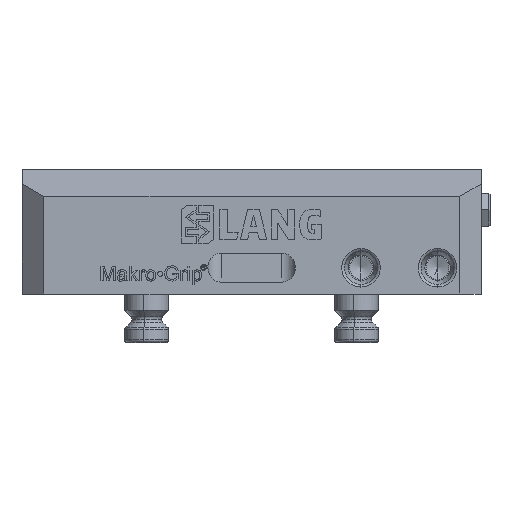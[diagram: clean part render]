
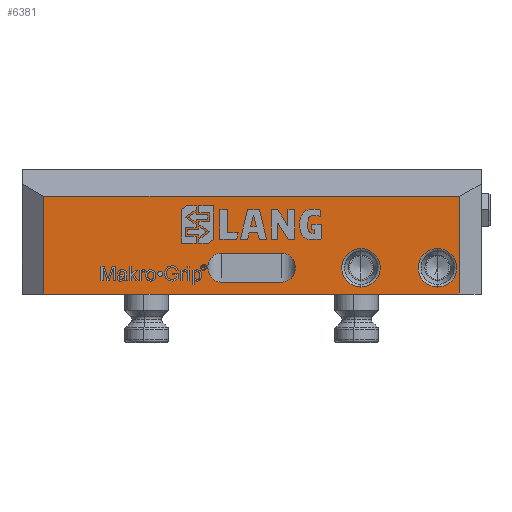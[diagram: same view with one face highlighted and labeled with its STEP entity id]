
A CAD part, top view. The second image highlights one B-rep face of the part: STEP entity #6381.
In plain terms, the highlighted planar face has unit normal (0, 0, 1).
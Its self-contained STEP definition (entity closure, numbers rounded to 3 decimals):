
#155 = DIRECTION ( 'NONE',  ( 0., 0., -1. ) ) ;
#170 = EDGE_LOOP ( 'NONE', ( #39964, #31040 ) ) ;
#343 = AXIS2_PLACEMENT_3D ( 'NONE', #7563, #155, #41467 ) ;
#467 = VERTEX_POINT ( 'NONE', #34072 ) ;
#1124 = CIRCLE ( 'NONE', #343, 8.805 ) ;
#1320 = LINE ( 'NONE', #42352, #46187 ) ;
#2299 = CARTESIAN_POINT ( 'NONE',  ( 95., 0., 62.5 ) ) ;
#2781 = CARTESIAN_POINT ( 'NONE',  ( 26.25, 5.441, 62.5 ) ) ;
#2980 = CARTESIAN_POINT ( 'NONE',  ( 85., 20.805, 62.5 ) ) ;
#3400 = EDGE_CURVE ( 'NONE', #38616, #25368, #8325, .T. ) ;
#4139 = ORIENTED_EDGE ( 'NONE', *, *, #47502, .T. ) ;
#4159 = CIRCLE ( 'NONE', #41796, 8.805 ) ;
#6381 = ADVANCED_FACE ( 'NONE', ( #40444, #17844, #37493, #21812 ), #13938, .F. ) ;
#6610 = EDGE_CURVE ( 'NONE', #14619, #32850, #23280, .T. ) ;
#6764 = DIRECTION ( 'NONE',  ( 0., 0., -1. ) ) ;
#6779 = EDGE_CURVE ( 'NONE', #28191, #34558, #39292, .T. ) ;
#6876 = ORIENTED_EDGE ( 'NONE', *, *, #6610, .T. ) ;
#6921 = CARTESIAN_POINT ( 'NONE',  ( 26.25, 18.743, 62.5 ) ) ;
#7022 = DIRECTION ( 'NONE',  ( 0., 0., -1. ) ) ;
#7312 = CARTESIAN_POINT ( 'NONE',  ( 50., 20.805, 62.5 ) ) ;
#7563 = CARTESIAN_POINT ( 'NONE',  ( 50., 12., 62.5 ) ) ;
#7897 = DIRECTION ( 'NONE',  ( 0., 0., -1. ) ) ;
#7936 = EDGE_LOOP ( 'NONE', ( #19419, #48270, #21688, #30878 ) ) ;
#8325 = CIRCLE ( 'NONE', #21722, 8.805 ) ;
#8395 = LINE ( 'NONE', #22305, #38388 ) ;
#8670 = CARTESIAN_POINT ( 'NONE',  ( -26.25, 18.743, 62.5 ) ) ;
#8701 = DIRECTION ( 'NONE',  ( -1., 0., 0. ) ) ;
#9970 = CARTESIAN_POINT ( 'NONE',  ( 50., 12., 62.5 ) ) ;
#10013 = VECTOR ( 'NONE', #39832, 1000. ) ;
#10059 = EDGE_CURVE ( 'NONE', #30457, #467, #24880, .T. ) ;
#11648 = VERTEX_POINT ( 'NONE', #20887 ) ;
#11817 = ORIENTED_EDGE ( 'NONE', *, *, #33911, .T. ) ;
#13335 = VECTOR ( 'NONE', #25341, 1000. ) ;
#13938 = PLANE ( 'NONE',  #35214 ) ;
#14056 = EDGE_LOOP ( 'NONE', ( #6876, #11817 ) ) ;
#14619 = VERTEX_POINT ( 'NONE', #2980 ) ;
#17046 = CARTESIAN_POINT ( 'NONE',  ( 50., 3.195, 62.5 ) ) ;
#17071 = DIRECTION ( 'NONE',  ( 0., 0., -1. ) ) ;
#17734 = CARTESIAN_POINT ( 'NONE',  ( 13.75, 18.743, 62.5 ) ) ;
#17844 = FACE_BOUND ( 'NONE', #170, .T. ) ;
#18080 = DIRECTION ( 'NONE',  ( -1., 0., 0. ) ) ;
#18365 = DIRECTION ( 'NONE',  ( 0., 1., 0. ) ) ;
#19031 = ORIENTED_EDGE ( 'NONE', *, *, #36797, .T. ) ;
#19419 = ORIENTED_EDGE ( 'NONE', *, *, #47805, .T. ) ;
#20786 = CARTESIAN_POINT ( 'NONE',  ( 85., 12., 62.5 ) ) ;
#20792 = CARTESIAN_POINT ( 'NONE',  ( 85., 3.195, 62.5 ) ) ;
#20887 = CARTESIAN_POINT ( 'NONE',  ( 13.75, 5.441, 62.5 ) ) ;
#21123 =( BOUNDED_CURVE ( )  B_SPLINE_CURVE ( 3, ( #33207, #2781, #6921, #17734 ),
 .UNSPECIFIED., .F., .F. ) 
 B_SPLINE_CURVE_WITH_KNOTS ( ( 4, 4 ),
 ( 0., 3.142 ),
 .UNSPECIFIED. ) 
 CURVE ( )  GEOMETRIC_REPRESENTATION_ITEM ( )  RATIONAL_B_SPLINE_CURVE ( ( 1., 0.333, 0.333, 1. ) ) 
 REPRESENTATION_ITEM ( '' )  );
#21688 = ORIENTED_EDGE ( 'NONE', *, *, #22940, .T. ) ;
#21722 = AXIS2_PLACEMENT_3D ( 'NONE', #9970, #6764, #28893 ) ;
#21812 = FACE_OUTER_BOUND ( 'NONE', #7936, .T. ) ;
#22149 = EDGE_CURVE ( 'NONE', #26302, #22844, #32210, .T. ) ;
#22305 = CARTESIAN_POINT ( 'NONE',  ( 95., 57., 62.5 ) ) ;
#22844 = VERTEX_POINT ( 'NONE', #24504 ) ;
#22940 = EDGE_CURVE ( 'NONE', #22844, #467, #44598, .T. ) ;
#23280 = CIRCLE ( 'NONE', #41270, 8.805 ) ;
#23812 = CARTESIAN_POINT ( 'NONE',  ( 105., 18.743, 62.5 ) ) ;
#24124 = ORIENTED_EDGE ( 'NONE', *, *, #6779, .F. ) ;
#24460 = CARTESIAN_POINT ( 'NONE',  ( 95., 44.587, 62.5 ) ) ;
#24504 = CARTESIAN_POINT ( 'NONE',  ( -95., 44.587, 62.5 ) ) ;
#24880 = LINE ( 'NONE', #43810, #10013 ) ;
#25341 = DIRECTION ( 'NONE',  ( -1., 0., 0. ) ) ;
#25368 = VERTEX_POINT ( 'NONE', #7312 ) ;
#25450 = EDGE_CURVE ( 'NONE', #25368, #38616, #1124, .T. ) ;
#25951 = CARTESIAN_POINT ( 'NONE',  ( -95., 0., 62.5 ) ) ;
#26302 = VERTEX_POINT ( 'NONE', #24460 ) ;
#27360 = CARTESIAN_POINT ( 'NONE',  ( -13.75, 5.441, 62.5 ) ) ;
#27899 = EDGE_LOOP ( 'NONE', ( #24124, #19031, #33441, #4139 ) ) ;
#28191 = VERTEX_POINT ( 'NONE', #41673 ) ;
#28446 = LINE ( 'NONE', #23812, #29217 ) ;
#28893 = DIRECTION ( 'NONE',  ( 0., 1., 0. ) ) ;
#29017 = CARTESIAN_POINT ( 'NONE',  ( 105., 44.587, 62.5 ) ) ;
#29217 = VECTOR ( 'NONE', #39475, 1000. ) ;
#30457 = VERTEX_POINT ( 'NONE', #2299 ) ;
#30878 = ORIENTED_EDGE ( 'NONE', *, *, #10059, .F. ) ;
#30952 = DIRECTION ( 'NONE',  ( 0., 1., 0. ) ) ;
#31040 = ORIENTED_EDGE ( 'NONE', *, *, #3400, .T. ) ;
#32060 = DIRECTION ( 'NONE',  ( 0., 1., 0. ) ) ;
#32210 = LINE ( 'NONE', #29017, #13335 ) ;
#32850 = VERTEX_POINT ( 'NONE', #20792 ) ;
#33207 = CARTESIAN_POINT ( 'NONE',  ( 13.75, 5.441, 62.5 ) ) ;
#33324 = CARTESIAN_POINT ( 'NONE',  ( 13.75, 18.743, 62.5 ) ) ;
#33441 = ORIENTED_EDGE ( 'NONE', *, *, #43461, .F. ) ;
#33911 = EDGE_CURVE ( 'NONE', #32850, #14619, #4159, .T. ) ;
#34072 = CARTESIAN_POINT ( 'NONE',  ( -95., 0., 62.5 ) ) ;
#34558 = VERTEX_POINT ( 'NONE', #37132 ) ;
#35214 = AXIS2_PLACEMENT_3D ( 'NONE', #36996, #7022, #18080 ) ;
#35687 = CARTESIAN_POINT ( 'NONE',  ( -26.25, 5.441, 62.5 ) ) ;
#36797 = EDGE_CURVE ( 'NONE', #28191, #46234, #28446, .T. ) ;
#36996 = CARTESIAN_POINT ( 'NONE',  ( 105., 0., 62.5 ) ) ;
#37132 = CARTESIAN_POINT ( 'NONE',  ( -13.75, 5.441, 62.5 ) ) ;
#37493 = FACE_BOUND ( 'NONE', #27899, .T. ) ;
#37846 = CARTESIAN_POINT ( 'NONE',  ( 85., 12., 62.5 ) ) ;
#38388 = VECTOR ( 'NONE', #18365, 1000. ) ;
#38616 = VERTEX_POINT ( 'NONE', #17046 ) ;
#39292 =( BOUNDED_CURVE ( )  B_SPLINE_CURVE ( 3, ( #46728, #8670, #35687, #27360 ),
 .UNSPECIFIED., .F., .F. ) 
 B_SPLINE_CURVE_WITH_KNOTS ( ( 4, 4 ),
 ( 3.142, 6.283 ),
 .UNSPECIFIED. ) 
 CURVE ( )  GEOMETRIC_REPRESENTATION_ITEM ( )  RATIONAL_B_SPLINE_CURVE ( ( 1., 0.333, 0.333, 1. ) ) 
 REPRESENTATION_ITEM ( '' )  );
#39475 = DIRECTION ( 'NONE',  ( 1., 0., 0. ) ) ;
#39832 = DIRECTION ( 'NONE',  ( -1., 0., 0. ) ) ;
#39964 = ORIENTED_EDGE ( 'NONE', *, *, #25450, .T. ) ;
#40444 = FACE_BOUND ( 'NONE', #14056, .T. ) ;
#40846 = VECTOR ( 'NONE', #45081, 1000. ) ;
#41270 = AXIS2_PLACEMENT_3D ( 'NONE', #20786, #17071, #32060 ) ;
#41467 = DIRECTION ( 'NONE',  ( 0., 1., 0. ) ) ;
#41673 = CARTESIAN_POINT ( 'NONE',  ( -13.75, 18.743, 62.5 ) ) ;
#41796 = AXIS2_PLACEMENT_3D ( 'NONE', #37846, #7897, #30952 ) ;
#42352 = CARTESIAN_POINT ( 'NONE',  ( 20., 5.441, 62.5 ) ) ;
#43461 = EDGE_CURVE ( 'NONE', #11648, #46234, #21123, .T. ) ;
#43810 = CARTESIAN_POINT ( 'NONE',  ( 105., 0., 62.5 ) ) ;
#44598 = LINE ( 'NONE', #25951, #40846 ) ;
#45081 = DIRECTION ( 'NONE',  ( 0., -1., 0. ) ) ;
#46187 = VECTOR ( 'NONE', #8701, 1000. ) ;
#46234 = VERTEX_POINT ( 'NONE', #33324 ) ;
#46728 = CARTESIAN_POINT ( 'NONE',  ( -13.75, 18.743, 62.5 ) ) ;
#47502 = EDGE_CURVE ( 'NONE', #11648, #34558, #1320, .T. ) ;
#47805 = EDGE_CURVE ( 'NONE', #30457, #26302, #8395, .T. ) ;
#48270 = ORIENTED_EDGE ( 'NONE', *, *, #22149, .T. ) ;
